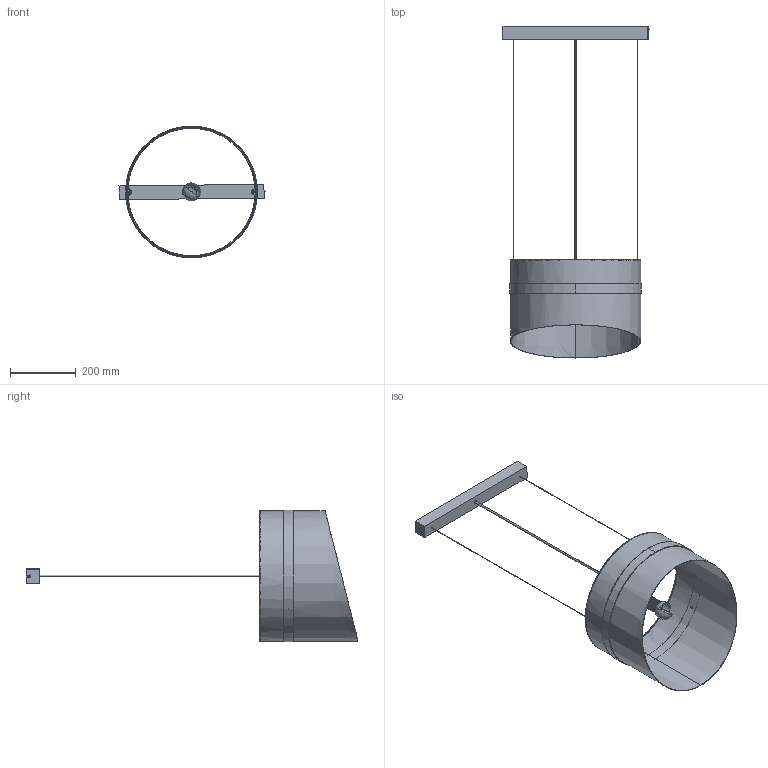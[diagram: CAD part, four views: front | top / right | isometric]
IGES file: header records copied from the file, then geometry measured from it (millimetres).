
Start section: SolidWorks IGES file using analytic representation for surfaces
Global section: file name: E:\_DESIGN\Emy\EMY 400_6915\EMY 400.IGS; native system: SolidWorks 2016; preprocessor: SolidWorks 2016; author: Asia; date: 160707.140351; units: millimetre
Bounding box: 443.15 x 1007.25 x 400 mm (x, y, z)
Surface area: 880542.7 mm2 (no closed solid volume)
Topology: 0 solids, 0 shells, 434 faces, 6614 edges, 6609 vertices
Faces by surface type: revolution 217, bspline 217
